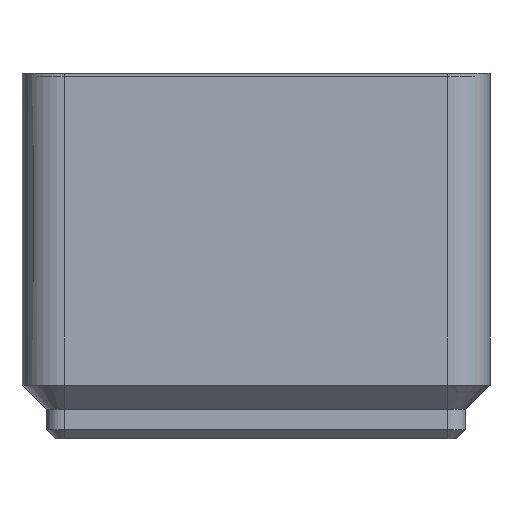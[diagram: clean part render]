
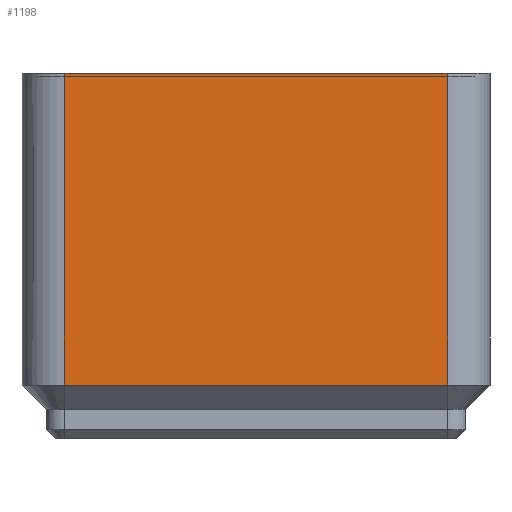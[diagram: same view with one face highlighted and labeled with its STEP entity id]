
A CAD part, left-side view. The second image highlights one B-rep face of the part: STEP entity #1198.
In plain terms, the highlighted planar face has unit normal (-1, 0, 0).
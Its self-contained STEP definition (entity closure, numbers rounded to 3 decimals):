
#416 = PLANE('',#417);
#417 = AXIS2_PLACEMENT_3D('',#418,#419,#420);
#418 = CARTESIAN_POINT('',(-41.75,0.,4.75));
#419 = DIRECTION('',(-0.707,0.,-0.707));
#420 = DIRECTION('',(0.,-1.,-0.));
#793 = VERTEX_POINT('',#794);
#794 = CARTESIAN_POINT('',(-41.75,-17.,4.75));
#812 = EDGE_CURVE('',#793,#813,#815,.T.);
#813 = VERTEX_POINT('',#814);
#814 = CARTESIAN_POINT('',(-41.75,17.,4.75));
#815 = SURFACE_CURVE('',#816,(#820,#827),.PCURVE_S1.);
#816 = LINE('',#817,#818);
#817 = CARTESIAN_POINT('',(-41.75,0.,4.75));
#818 = VECTOR('',#819,1.);
#819 = DIRECTION('',(0.,1.,0.));
#820 = PCURVE('',#416,#821);
#821 = DEFINITIONAL_REPRESENTATION('',(#822),#826);
#822 = LINE('',#823,#824);
#823 = CARTESIAN_POINT('',(0.,0.));
#824 = VECTOR('',#825,1.);
#825 = DIRECTION('',(-1.,0.));
#826 = ( GEOMETRIC_REPRESENTATION_CONTEXT(2) 
PARAMETRIC_REPRESENTATION_CONTEXT() REPRESENTATION_CONTEXT('2D SPACE',''
  ) );
#827 = PCURVE('',#828,#833);
#828 = PLANE('',#829);
#829 = AXIS2_PLACEMENT_3D('',#830,#831,#832);
#830 = CARTESIAN_POINT('',(-41.75,0.,5.05));
#831 = DIRECTION('',(-1.,0.,0.));
#832 = DIRECTION('',(-0.,-1.,-0.));
#833 = DEFINITIONAL_REPRESENTATION('',(#834),#838);
#834 = LINE('',#835,#836);
#835 = CARTESIAN_POINT('',(0.,-0.3));
#836 = VECTOR('',#837,1.);
#837 = DIRECTION('',(-1.,0.));
#838 = ( GEOMETRIC_REPRESENTATION_CONTEXT(2) 
PARAMETRIC_REPRESENTATION_CONTEXT() REPRESENTATION_CONTEXT('2D SPACE',''
  ) );
#1187 = CYLINDRICAL_SURFACE('',#1188,3.75);
#1188 = AXIS2_PLACEMENT_3D('',#1189,#1190,#1191);
#1189 = CARTESIAN_POINT('',(-38.,-17.,4.75));
#1190 = DIRECTION('',(-0.,-0.,1.));
#1191 = DIRECTION('',(-1.,0.,0.));
#1198 = ADVANCED_FACE('',(#1199),#828,.T.);
#1199 = FACE_BOUND('',#1200,.T.);
#1200 = EDGE_LOOP('',(#1201,#1202,#1225,#1253));
#1201 = ORIENTED_EDGE('',*,*,#812,.F.);
#1202 = ORIENTED_EDGE('',*,*,#1203,.T.);
#1203 = EDGE_CURVE('',#793,#1204,#1206,.T.);
#1204 = VERTEX_POINT('',#1205);
#1205 = CARTESIAN_POINT('',(-41.75,-17.,32.4));
#1206 = SURFACE_CURVE('',#1207,(#1211,#1218),.PCURVE_S1.);
#1207 = LINE('',#1208,#1209);
#1208 = CARTESIAN_POINT('',(-41.75,-17.,4.75));
#1209 = VECTOR('',#1210,1.);
#1210 = DIRECTION('',(0.,0.,1.));
#1211 = PCURVE('',#828,#1212);
#1212 = DEFINITIONAL_REPRESENTATION('',(#1213),#1217);
#1213 = LINE('',#1214,#1215);
#1214 = CARTESIAN_POINT('',(17.,-0.3));
#1215 = VECTOR('',#1216,1.);
#1216 = DIRECTION('',(-0.,1.));
#1217 = ( GEOMETRIC_REPRESENTATION_CONTEXT(2) 
PARAMETRIC_REPRESENTATION_CONTEXT() REPRESENTATION_CONTEXT('2D SPACE',''
  ) );
#1218 = PCURVE('',#1187,#1219);
#1219 = DEFINITIONAL_REPRESENTATION('',(#1220),#1224);
#1220 = LINE('',#1221,#1222);
#1221 = CARTESIAN_POINT('',(6.283,0.));
#1222 = VECTOR('',#1223,1.);
#1223 = DIRECTION('',(0.,1.));
#1224 = ( GEOMETRIC_REPRESENTATION_CONTEXT(2) 
PARAMETRIC_REPRESENTATION_CONTEXT() REPRESENTATION_CONTEXT('2D SPACE',''
  ) );
#1225 = ORIENTED_EDGE('',*,*,#1226,.T.);
#1226 = EDGE_CURVE('',#1204,#1227,#1229,.T.);
#1227 = VERTEX_POINT('',#1228);
#1228 = CARTESIAN_POINT('',(-41.75,17.,32.4));
#1229 = SURFACE_CURVE('',#1230,(#1234,#1241),.PCURVE_S1.);
#1230 = LINE('',#1231,#1232);
#1231 = CARTESIAN_POINT('',(-41.75,0.,32.4));
#1232 = VECTOR('',#1233,1.);
#1233 = DIRECTION('',(0.,1.,0.));
#1234 = PCURVE('',#828,#1235);
#1235 = DEFINITIONAL_REPRESENTATION('',(#1236),#1240);
#1236 = LINE('',#1237,#1238);
#1237 = CARTESIAN_POINT('',(-0.,27.35));
#1238 = VECTOR('',#1239,1.);
#1239 = DIRECTION('',(-1.,0.));
#1240 = ( GEOMETRIC_REPRESENTATION_CONTEXT(2) 
PARAMETRIC_REPRESENTATION_CONTEXT() REPRESENTATION_CONTEXT('2D SPACE',''
  ) );
#1241 = PCURVE('',#1242,#1247);
#1242 = PLANE('',#1243);
#1243 = AXIS2_PLACEMENT_3D('',#1244,#1245,#1246);
#1244 = CARTESIAN_POINT('',(0.,0.,32.4)
  );
#1245 = DIRECTION('',(0.,0.,1.));
#1246 = DIRECTION('',(1.,0.,-0.));
#1247 = DEFINITIONAL_REPRESENTATION('',(#1248),#1252);
#1248 = LINE('',#1249,#1250);
#1249 = CARTESIAN_POINT('',(-41.75,0.));
#1250 = VECTOR('',#1251,1.);
#1251 = DIRECTION('',(0.,1.));
#1252 = ( GEOMETRIC_REPRESENTATION_CONTEXT(2) 
PARAMETRIC_REPRESENTATION_CONTEXT() REPRESENTATION_CONTEXT('2D SPACE',''
  ) );
#1253 = ORIENTED_EDGE('',*,*,#1254,.T.);
#1254 = EDGE_CURVE('',#1227,#813,#1255,.T.);
#1255 = SURFACE_CURVE('',#1256,(#1260,#1267),.PCURVE_S1.);
#1256 = LINE('',#1257,#1258);
#1257 = CARTESIAN_POINT('',(-41.75,17.,32.4));
#1258 = VECTOR('',#1259,1.);
#1259 = DIRECTION('',(0.,0.,-1.));
#1260 = PCURVE('',#828,#1261);
#1261 = DEFINITIONAL_REPRESENTATION('',(#1262),#1266);
#1262 = LINE('',#1263,#1264);
#1263 = CARTESIAN_POINT('',(-17.,27.35));
#1264 = VECTOR('',#1265,1.);
#1265 = DIRECTION('',(0.,-1.));
#1266 = ( GEOMETRIC_REPRESENTATION_CONTEXT(2) 
PARAMETRIC_REPRESENTATION_CONTEXT() REPRESENTATION_CONTEXT('2D SPACE',''
  ) );
#1267 = PCURVE('',#1268,#1273);
#1268 = CYLINDRICAL_SURFACE('',#1269,3.75);
#1269 = AXIS2_PLACEMENT_3D('',#1270,#1271,#1272);
#1270 = CARTESIAN_POINT('',(-38.,17.,4.75));
#1271 = DIRECTION('',(-0.,-0.,1.));
#1272 = DIRECTION('',(-1.,0.,0.));
#1273 = DEFINITIONAL_REPRESENTATION('',(#1274),#1277);
#1274 = B_SPLINE_CURVE_WITH_KNOTS('',1,(#1275,#1276),.UNSPECIFIED.,.F.,
  .F.,(2,2),(0.,27.65),.PIECEWISE_BEZIER_KNOTS.);
#1275 = CARTESIAN_POINT('',(6.283,27.65));
#1276 = CARTESIAN_POINT('',(6.283,0.));
#1277 = ( GEOMETRIC_REPRESENTATION_CONTEXT(2) 
PARAMETRIC_REPRESENTATION_CONTEXT() REPRESENTATION_CONTEXT('2D SPACE',''
  ) );
